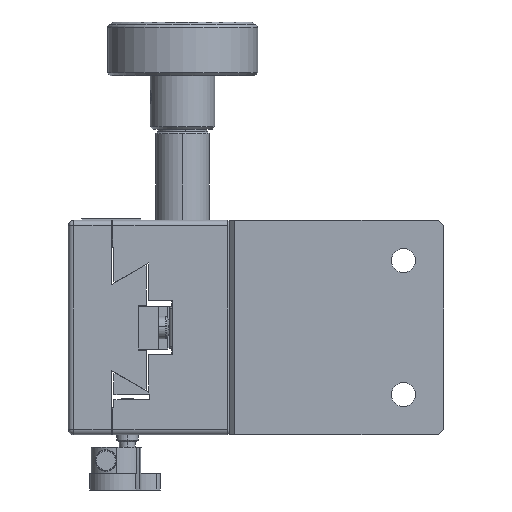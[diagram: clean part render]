
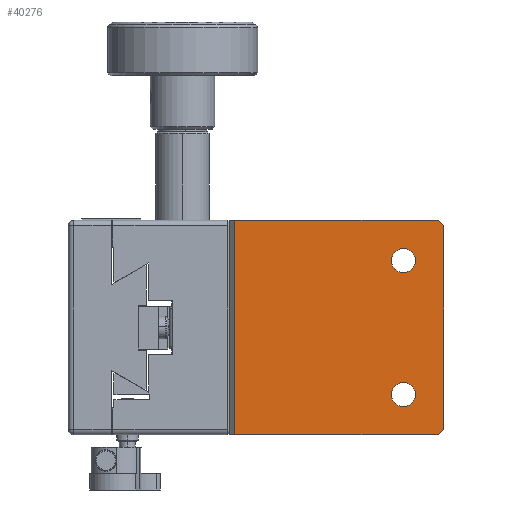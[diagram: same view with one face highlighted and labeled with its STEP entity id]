
A CAD part, left-side view. The second image highlights one B-rep face of the part: STEP entity #40276.
In plain terms, the highlighted planar face has unit normal (-1, 0, 0).
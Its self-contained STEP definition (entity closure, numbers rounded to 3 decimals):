
#1156 = FACE_BOUND ( 'NONE', #34462, .T. ) ;
#2378 = VERTEX_POINT ( 'NONE', #31563 ) ;
#2548 = ORIENTED_EDGE ( 'NONE', *, *, #18650, .T. ) ;
#2690 = ORIENTED_EDGE ( 'NONE', *, *, #7825, .T. ) ;
#2833 = DIRECTION ( 'NONE',  ( 0., -0.707, 0.707 ) ) ;
#2873 = ORIENTED_EDGE ( 'NONE', *, *, #35128, .T. ) ;
#3286 = DIRECTION ( 'NONE',  ( 1., 0., 0. ) ) ;
#4248 = AXIS2_PLACEMENT_3D ( 'NONE', #42240, #20982, #45835 ) ;
#4388 = VECTOR ( 'NONE', #12623, 1000. ) ;
#4406 = AXIS2_PLACEMENT_3D ( 'NONE', #17913, #42804, #21522 ) ;
#5683 = CARTESIAN_POINT ( 'NONE',  ( -20., -32., -20. ) ) ;
#5881 = VERTEX_POINT ( 'NONE', #17733 ) ;
#7402 = VERTEX_POINT ( 'NONE', #15759 ) ;
#7624 = CARTESIAN_POINT ( 'NONE',  ( -20., 7., -20. ) ) ;
#7825 = EDGE_CURVE ( 'NONE', #8471, #2378, #28527, .T. ) ;
#7899 = DIRECTION ( 'NONE',  ( 0., 1., 0. ) ) ;
#7939 = VERTEX_POINT ( 'NONE', #41348 ) ;
#8471 = VERTEX_POINT ( 'NONE', #36548 ) ;
#9082 = ORIENTED_EDGE ( 'NONE', *, *, #22986, .T. ) ;
#9765 = DIRECTION ( 'NONE',  ( 0., 1., 0. ) ) ;
#10755 = PLANE ( 'NONE',  #4406 ) ;
#10987 = EDGE_CURVE ( 'NONE', #29289, #16836, #12281, .T. ) ;
#11757 = ORIENTED_EDGE ( 'NONE', *, *, #10987, .F. ) ;
#12281 = LINE ( 'NONE', #23020, #30146 ) ;
#12623 = DIRECTION ( 'NONE',  ( 0., 0.707, 0.707 ) ) ;
#15759 = CARTESIAN_POINT ( 'NONE',  ( -20., -32., 19. ) ) ;
#15918 = CARTESIAN_POINT ( 'NONE',  ( -20., -24.5, 12.5 ) ) ;
#15974 = CIRCLE ( 'NONE', #4248, 2.25 ) ;
#16836 = VERTEX_POINT ( 'NONE', #7624 ) ;
#17733 = CARTESIAN_POINT ( 'NONE',  ( -20., -32., -19. ) ) ;
#17913 = CARTESIAN_POINT ( 'NONE',  ( -20., 8., -20. ) ) ;
#18035 = ORIENTED_EDGE ( 'NONE', *, *, #31859, .T. ) ;
#18650 = EDGE_CURVE ( 'NONE', #5881, #7402, #31290, .T. ) ;
#19360 = CARTESIAN_POINT ( 'NONE',  ( -20., -22.25, 12.5 ) ) ;
#19489 = DIRECTION ( 'NONE',  ( 0., -1., 0. ) ) ;
#20038 = CARTESIAN_POINT ( 'NONE',  ( -20., -24.5, 12.5 ) ) ;
#20982 = DIRECTION ( 'NONE',  ( 1., 0., 0. ) ) ;
#21522 = DIRECTION ( 'NONE',  ( 0., -1., 0. ) ) ;
#21786 = VECTOR ( 'NONE', #23301, 1000. ) ;
#21997 = CIRCLE ( 'NONE', #23997, 2.25 ) ;
#22891 = CARTESIAN_POINT ( 'NONE',  ( -20., -32., 19. ) ) ;
#22986 = EDGE_CURVE ( 'NONE', #29289, #5881, #35963, .T. ) ;
#23020 = CARTESIAN_POINT ( 'NONE',  ( -20., 8., -20. ) ) ;
#23150 = AXIS2_PLACEMENT_3D ( 'NONE', #20038, #44901, #23612 ) ;
#23301 = DIRECTION ( 'NONE',  ( 0., 0., 1. ) ) ;
#23612 = DIRECTION ( 'NONE',  ( 0., -1., 0. ) ) ;
#23657 = AXIS2_PLACEMENT_3D ( 'NONE', #24624, #3286, #28236 ) ;
#23997 = AXIS2_PLACEMENT_3D ( 'NONE', #15918, #40777, #19489 ) ;
#24451 = LINE ( 'NONE', #22891, #4388 ) ;
#24553 = VERTEX_POINT ( 'NONE', #26623 ) ;
#24624 = CARTESIAN_POINT ( 'NONE',  ( -20., -24.5, -12.5 ) ) ;
#24926 = CIRCLE ( 'NONE', #23657, 2.25 ) ;
#25026 = VECTOR ( 'NONE', #32136, 1000. ) ;
#26494 = VECTOR ( 'NONE', #2833, 1000. ) ;
#26623 = CARTESIAN_POINT ( 'NONE',  ( -20., -26.75, -12.5 ) ) ;
#26719 = ORIENTED_EDGE ( 'NONE', *, *, #45198, .T. ) ;
#27650 = VERTEX_POINT ( 'NONE', #19360 ) ;
#28236 = DIRECTION ( 'NONE',  ( 0., -1., 0. ) ) ;
#28478 = FACE_BOUND ( 'NONE', #35468, .T. ) ;
#28527 = LINE ( 'NONE', #31129, #29649 ) ;
#28541 = CARTESIAN_POINT ( 'NONE',  ( -20., 7., -20. ) ) ;
#29289 = VERTEX_POINT ( 'NONE', #36945 ) ;
#29626 = EDGE_CURVE ( 'NONE', #35696, #24553, #24926, .T. ) ;
#29649 = VECTOR ( 'NONE', #9765, 1000. ) ;
#30146 = VECTOR ( 'NONE', #7899, 1000. ) ;
#30522 = EDGE_CURVE ( 'NONE', #24553, #35696, #15974, .T. ) ;
#31078 = ORIENTED_EDGE ( 'NONE', *, *, #29626, .T. ) ;
#31129 = CARTESIAN_POINT ( 'NONE',  ( -20., 8., 20. ) ) ;
#31290 = LINE ( 'NONE', #5683, #21786 ) ;
#31563 = CARTESIAN_POINT ( 'NONE',  ( -20., 7., 20. ) ) ;
#31859 = EDGE_CURVE ( 'NONE', #7939, #27650, #21997, .T. ) ;
#32136 = DIRECTION ( 'NONE',  ( 0., 0., -1. ) ) ;
#32144 = CIRCLE ( 'NONE', #23150, 2.25 ) ;
#34462 = EDGE_LOOP ( 'NONE', ( #18035, #2873 ) ) ;
#35128 = EDGE_CURVE ( 'NONE', #27650, #7939, #32144, .T. ) ;
#35468 = EDGE_LOOP ( 'NONE', ( #36768, #31078 ) ) ;
#35696 = VERTEX_POINT ( 'NONE', #38159 ) ;
#35963 = LINE ( 'NONE', #45469, #26494 ) ;
#36548 = CARTESIAN_POINT ( 'NONE',  ( -20., -31., 20. ) ) ;
#36768 = ORIENTED_EDGE ( 'NONE', *, *, #30522, .T. ) ;
#36945 = CARTESIAN_POINT ( 'NONE',  ( -20., -31., -20. ) ) ;
#38159 = CARTESIAN_POINT ( 'NONE',  ( -20., -22.25, -12.5 ) ) ;
#39024 = FACE_OUTER_BOUND ( 'NONE', #40269, .T. ) ;
#40269 = EDGE_LOOP ( 'NONE', ( #2548, #40682, #2690, #26719, #11757, #9082 ) ) ;
#40276 = ADVANCED_FACE ( 'NONE', ( #28478, #1156, #39024 ), #10755, .F. ) ;
#40682 = ORIENTED_EDGE ( 'NONE', *, *, #42072, .T. ) ;
#40777 = DIRECTION ( 'NONE',  ( 1., 0., 0. ) ) ;
#41348 = CARTESIAN_POINT ( 'NONE',  ( -20., -26.75, 12.5 ) ) ;
#42072 = EDGE_CURVE ( 'NONE', #7402, #8471, #24451, .T. ) ;
#42240 = CARTESIAN_POINT ( 'NONE',  ( -20., -24.5, -12.5 ) ) ;
#42804 = DIRECTION ( 'NONE',  ( 1., 0., 0. ) ) ;
#43938 = LINE ( 'NONE', #28541, #25026 ) ;
#44901 = DIRECTION ( 'NONE',  ( 1., 0., 0. ) ) ;
#45198 = EDGE_CURVE ( 'NONE', #2378, #16836, #43938, .T. ) ;
#45469 = CARTESIAN_POINT ( 'NONE',  ( -20., -31., -20. ) ) ;
#45835 = DIRECTION ( 'NONE',  ( 0., -1., 0. ) ) ;
